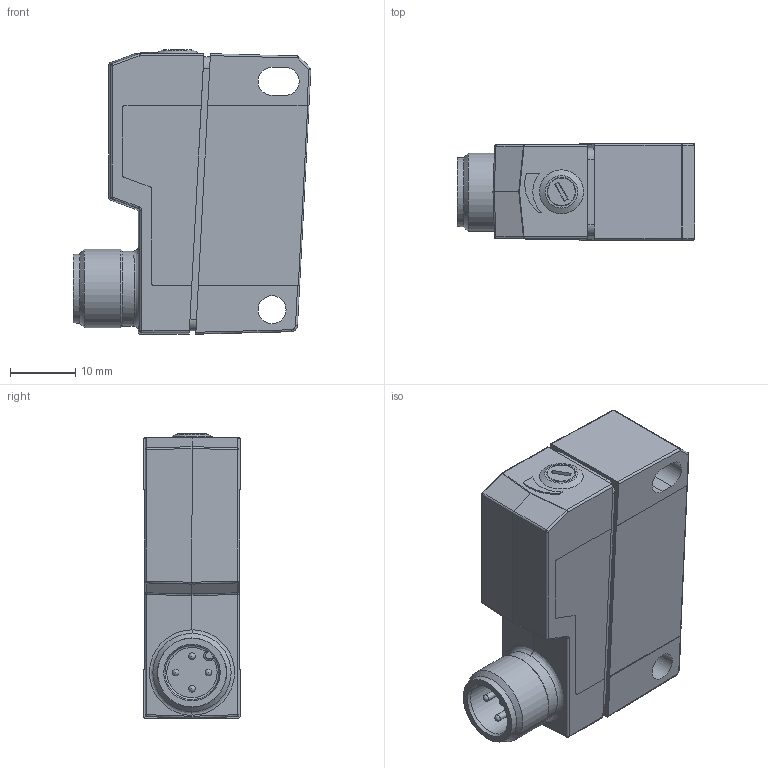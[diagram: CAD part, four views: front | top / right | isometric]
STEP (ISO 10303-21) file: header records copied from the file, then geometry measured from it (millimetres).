
FILE_DESCRIPTION( ( 'Unknown' ), '1' );
FILE_NAME( '//baumerholding.org/frauenfeld/bereich/BECH/Services/me_CAD/Solid Edge/Models/Dokumentationen/Opto/xxDK 14_2009/Vereinfachte Modelle/Neutralformate/xxDK_14_MultiTurn_S14.stp', 'Unknown', ( 'Unknown' ), ( 'Unknown' ), 'XStep 1.0', 'Unknown', ' ' );
FILE_SCHEMA( ( 'automotive_design' ) );
Length unit declared in the file: millimetre
Products named in the file (1): Frontteil
Bounding box: 36.45 x 14.8 x 43.6 mm (x, y, z)
Volume: 17169.4 mm3; surface area: 5566.7 mm2
Topology: 1 solids, 1 shells, 161 faces, 382 edges, 229 vertices
Faces by surface type: plane 67, cylinder 64, sphere 16, torus 5, cone 5, bspline 4
Full cylindrical faces by diameter (mm): 1 x4, 4.3 x1, 11.5 x1, 12 x1
Entity records: 6319 total; most frequent: CARTESIAN_POINT 1344, DIRECTION 807, ORIENTED_EDGE 714, EDGE_CURVE 357, AXIS2_PLACEMENT_3D 296, VERTEX_POINT 223, LINE 215, VECTOR 215
